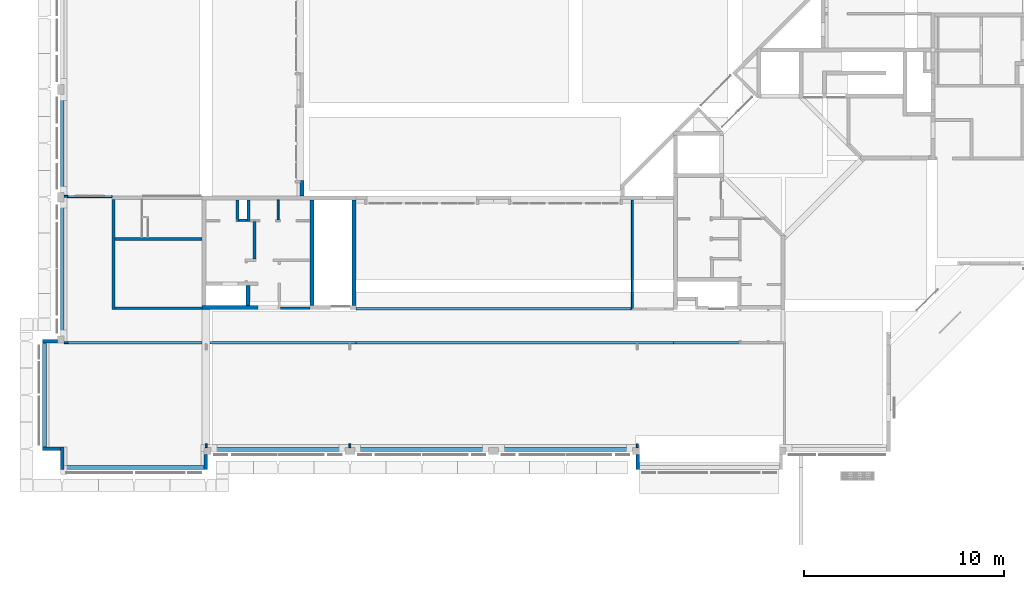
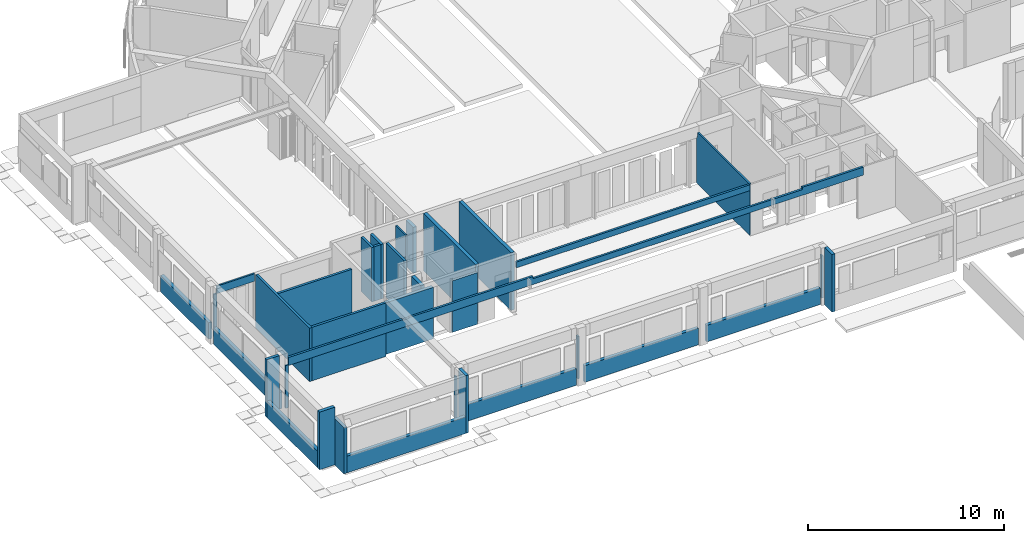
# One storey, part 14 of 30: 35 walls.
"""IFC4X3_ADD2 building model written with IfcOpenShell, lengths in millimetres."""

from ifc_helpers import new_model, si_unit, direction, frame, frame_2d, origin_with_axes, origin_2d_with_axis, place, context, subcontext, project, spatial, polyline, rectangle, outline, extrude, source, transform, mapped, material, type_object, type_shapes, element, save


model = new_model("IFC4X3_ADD2")

# Units and contexts
model_context = context("Model", 3, precision=1e-05, world=origin_with_axes(), true_north=direction((0.0, 1.0)))
body_context = subcontext(model_context, "Body", "Model", "MODEL_VIEW")
ifc_project = project(units=[si_unit("LENGTHUNIT", "METRE", prefix="MILLI"), si_unit("AREAUNIT", "SQUARE_METRE"), si_unit("VOLUMEUNIT", "CUBIC_METRE"), si_unit("PLANEANGLEUNIT", "RADIAN"), si_unit("TIMEUNIT", "SECOND"), si_unit("MASSUNIT", "GRAM")], contexts=[model_context])

# Site, building, storey
site_placement = place(None, origin_with_axes())
site = spatial("IfcSite", under=ifc_project, at=site_placement, Name="Site", CompositionType="ELEMENT")
building_placement = place(site_placement, origin_with_axes())
building = spatial("IfcBuilding", under=site, at=building_placement, Name="IFC Building Story")
storey_placement = place(building_placement, origin_with_axes())
storey = spatial("IfcBuildingStorey", under=building, at=storey_placement, Name="000", Elevation=0.0)

# Walls
ifc_material_1 = material(Name="BB_Beton_Bestaand")
wall_type_1 = type_object("IfcWallType", Name="BB_Beton_Bestaand 200", PredefinedType="NOTDEFINED", material=ifc_material_1)
wall_1_placement = place(storey_placement, origin_with_axes())
element("IfcWall", 1, at=wall_1_placement, inside=storey, type_object=wall_type_1, Name="Basic Wall:BB_XX_Wand uit beton, 200 mm", ObjectType="Basic Wall:BB_XX_Wand uit beton, 200 mm", PredefinedType="SOLIDWALL", context=body_context, shape_type="SweptSolid", body=[
    extrude(rectangle(XDim=2800.000000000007, YDim=200.0, at=origin_2d_with_axis()), frame((-42300.0, 7100.0, -80.0), z_axis=(0.0, 0.0, 1.0), x_axis=(1.0, 0.0, 0.0)), (0.0, 0.0, 1.0), 3220.0),
])
wall_2_placement = place(storey_placement, origin_with_axes())
element("IfcWall", 2, at=wall_2_placement, inside=storey, type_object=wall_type_1, Name="Basic Wall:BB_XX_Wand uit beton, 200 mm", ObjectType="Basic Wall:BB_XX_Wand uit beton, 200 mm", PredefinedType="SOLIDWALL", context=body_context, shape_type="SweptSolid", body=[
    extrude(rectangle(XDim=5300.00406588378, YDim=200.0, at=frame_2d((0.0, 0.0), x_axis=(0.0, 1.0))), frame((-36100.0, 9850.002032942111, -80.0), z_axis=(0.0, 0.0, 1.0), x_axis=(1.0, 0.0, 0.0)), (0.0, 0.0, 1.0), 3600.0),
])
wall_3_placement = place(storey_placement, origin_with_axes())
element("IfcWall", 3, at=wall_3_placement, inside=storey, type_object=wall_type_1, Name="Basic Wall:BB_XX_Wand uit beton, 200 mm", ObjectType="Basic Wall:BB_XX_Wand uit beton, 200 mm", PredefinedType="SOLIDWALL", context=body_context, shape_type="SweptSolid", body=[
    extrude(rectangle(XDim=5300.004065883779, YDim=200.0, at=frame_2d((0.0, 0.0), x_axis=(0.0, 1.0))), frame((-38200.0, 9850.00203294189, -80.0), z_axis=(0.0, 0.0, 1.0), x_axis=(1.0, 0.0, 0.0)), (0.0, 0.0, 1.0), 3600.0),
])
wall_type_2 = type_object("IfcWallType", Name="BB_Beton_Bestaand 190", PredefinedType="NOTDEFINED", material=ifc_material_1)
wall_4_placement = place(storey_placement, origin_with_axes())
element("IfcWall", 4, at=wall_4_placement, inside=storey, type_object=wall_type_2, Name="Basic Wall:BB_XX_Wand uit beton, 190 mm", ObjectType="Basic Wall:BB_XX_Wand uit beton, 190 mm", PredefinedType="SOLIDWALL", context=body_context, shape_type="SweptSolid", body=[
    extrude(rectangle(XDim=5210.0, YDim=189.9999999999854, at=frame_2d((0.0, 0.0), x_axis=(0.0, 1.0))), frame((-51600.0, 2700.0, -200.0), z_axis=(0.0, 0.0, 1.0), x_axis=(1.0, 0.0, 0.0)), (0.0, 0.0, 1.0), 1040.0),
])
wall_5_placement = place(storey_placement, origin_with_axes())
element("IfcWall", 5, at=wall_5_placement, inside=storey, type_object=wall_type_2, Name="Basic Wall:BB_XX_Wand uit beton, 190 mm", ObjectType="Basic Wall:BB_XX_Wand uit beton, 190 mm", PredefinedType="SOLIDWALL", context=body_context, shape_type="SweptSolid", body=[
    extrude(rectangle(XDim=1120.00000000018, YDim=189.9999999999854, at=frame_2d((0.0, 0.0), x_axis=(0.0, 1.0))), frame((-50700.0, -434.99999999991, -200.0), z_axis=(0.0, 0.0, 1.0), x_axis=(1.0, 0.0, 0.0)), (0.0, 0.0, 1.0), 2880.0),
])
wall_6_placement = place(storey_placement, origin_with_axes())
element("IfcWall", 6, at=wall_6_placement, inside=storey, type_object=wall_type_2, Name="Basic Wall:BB_XX_Wand uit beton, 190 mm", ObjectType="Basic Wall:BB_XX_Wand uit beton, 190 mm", PredefinedType="SOLIDWALL", context=body_context, shape_type="SweptSolid", body=[
    extrude(rectangle(XDim=900.0000000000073, YDim=190.0, at=origin_2d_with_axis()), frame((-51245.0, 30.0, -200.0), z_axis=(0.0, 0.0, 1.0), x_axis=(1.0, 0.0, 0.0)), (0.0, 0.0, 1.0), 3600.0),
])
wall_7_placement = place(storey_placement, origin_with_axes())
element("IfcWall", 7, at=wall_7_placement, inside=storey, type_object=wall_type_2, Name="Basic Wall:BB_XX_Wand uit beton, 190 mm", ObjectType="Basic Wall:BB_XX_Wand uit beton, 190 mm", PredefinedType="SOLIDWALL", context=body_context, shape_type="SweptSolid", body=[
    extrude(rectangle(XDim=7010.0, YDim=190.0, at=origin_2d_with_axis()), frame((-47100.0, -900.0, -200.0), z_axis=(0.0, 0.0, 1.0), x_axis=(1.0, 0.0, 0.0)), (0.0, 0.0, 1.0), 1039.99999999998),
])
wall_8_placement = place(storey_placement, origin_with_axes())
element("IfcWall", 8, at=wall_8_placement, inside=storey, type_object=wall_type_2, Name="Basic Wall:BB_XX_Wand uit beton, 190 mm", ObjectType="Basic Wall:BB_XX_Wand uit beton, 190 mm", PredefinedType="SOLIDWALL", context=body_context, shape_type="SweptSolid", body=[
    extrude(rectangle(XDim=6710.000000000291, YDim=190.0, at=origin_2d_with_axis()), frame((-39900.00000000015, 0.0, -200.0), z_axis=(0.0, 0.0, 1.0), x_axis=(1.0, 0.0, 0.0)), (0.0, 0.0, 1.0), 1040.0),
])
wall_9_placement = place(storey_placement, origin_with_axes())
element("IfcWall", 9, at=wall_9_placement, inside=storey, type_object=wall_type_2, Name="Basic Wall:BB_XX_Wand uit beton, 190 mm", ObjectType="Basic Wall:BB_XX_Wand uit beton, 190 mm", PredefinedType="SOLIDWALL", context=body_context, shape_type="SweptSolid", body=[
    extrude(rectangle(XDim=6710.000000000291, YDim=190.0, at=origin_2d_with_axis()), frame((-32700.00000000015, 0.0, -200.0), z_axis=(0.0, 0.0, 1.0), x_axis=(1.0, 0.0, 0.0)), (0.0, 0.0, 1.0), 1040.0),
])
wall_10_placement = place(storey_placement, origin_with_axes())
element("IfcWall", 10, at=wall_10_placement, inside=storey, type_object=wall_type_2, Name="Basic Wall:BB_XX_Wand uit beton, 190 mm", ObjectType="Basic Wall:BB_XX_Wand uit beton, 190 mm", PredefinedType="SOLIDWALL", context=body_context, shape_type="SweptSolid", body=[
    extrude(rectangle(XDim=6710.000000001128, YDim=190.0, at=origin_2d_with_axis()), frame((-25500.00000000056, 0.0, -200.0), z_axis=(0.0, 0.0, 1.0), x_axis=(1.0, 0.0, 0.0)), (0.0, 0.0, 1.0), 1040.0),
])
wall_11_placement = place(storey_placement, origin_with_axes())
element("IfcWall", 11, at=wall_11_placement, inside=storey, type_object=wall_type_2, Name="Basic Wall:BB_XX_Wand uit beton, 190 mm", ObjectType="Basic Wall:BB_XX_Wand uit beton, 190 mm", PredefinedType="SOLIDWALL", context=body_context, shape_type="SweptSolid", body=[
    extrude(rectangle(XDim=6709.99999999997, YDim=189.9999999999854, at=frame_2d((0.0, 0.0), x_axis=(0.0, 1.0))), frame((-50700.0, 9000.000000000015, -200.0), z_axis=(0.0, 0.0, 1.0), x_axis=(1.0, 0.0, 0.0)), (0.0, 0.0, 1.0), 1040.0),
])
wall_12_placement = place(storey_placement, origin_with_axes())
element("IfcWall", 12, at=wall_12_placement, inside=storey, type_object=wall_type_2, Name="Basic Wall:BB_XX_Wand uit beton, 190 mm", ObjectType="Basic Wall:BB_XX_Wand uit beton, 190 mm", PredefinedType="SOLIDWALL", context=body_context, shape_type="SweptSolid", body=[
    extrude(rectangle(XDim=4909.999999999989, YDim=189.9999999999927, at=frame_2d((0.0, 0.0), x_axis=(0.0, 1.0))), frame((-50700.0, 15300.00000000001, -200.0), z_axis=(0.0, 0.0, 1.0), x_axis=(1.0, 0.0, 0.0)), (0.0, 0.0, 1.0), 1030.00000000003),
])
wall_13_placement = place(storey_placement, origin_with_axes())
element("IfcWall", 13, at=wall_13_placement, inside=storey, type_object=wall_type_2, Name="Basic Wall:BB_XX_Wand uit beton, 190 mm", ObjectType="Basic Wall:BB_XX_Wand uit beton, 190 mm", PredefinedType="SOLIDWALL", context=body_context, shape_type="SweptSolid", body=[
    extrude(rectangle(XDim=754.995934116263, YDim=190.0, at=frame_2d((0.0, 0.0), x_axis=(0.0, 1.0))), frame((-38700.0, 13077.50203294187, -200.0), z_axis=(0.0, 0.0, 1.0), x_axis=(1.0, 0.0, 0.0)), (0.0, 0.0, 1.0), 2880.0),
])
wall_type_3 = type_object("IfcWallType", Name="BB_Beton_Bestaand 170", PredefinedType="NOTDEFINED", material=ifc_material_1)
wall_14_placement = place(storey_placement, origin_with_axes())
element("IfcWall", 14, at=wall_14_placement, inside=storey, type_object=wall_type_3, Name="Basic Wall:BB_XX_Wand uit beton, 170 mm", ObjectType="Basic Wall:BB_XX_Wand uit beton, 170 mm", PredefinedType="SOLIDWALL", context=body_context, shape_type="SweptSolid", body=[
    extrude(rectangle(XDim=750.0000000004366, YDim=170.0, at=origin_2d_with_axis()), frame((-51319.99999999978, 5420.0, -200.0), z_axis=(0.0, 0.0, 1.0), x_axis=(1.0, 0.0, 0.0)), (0.0, 0.0, 1.0), 3600.0),
])
wall_15_placement = place(storey_placement, origin_with_axes())
element("IfcWall", 15, at=wall_15_placement, inside=storey, type_object=wall_type_3, Name="Basic Wall:BB_XX_Wand uit beton, 170 mm", ObjectType="Basic Wall:BB_XX_Wand uit beton, 170 mm", PredefinedType="SOLIDWALL", context=body_context, shape_type="SweptSolid", body=[
    extrude(rectangle(XDim=750.000000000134, YDim=170.0, at=frame_2d((0.0, 0.0), x_axis=(0.0, 1.0))), frame((-43510.0, -620.0000000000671, -200.0), z_axis=(0.0, 0.0, 1.0), x_axis=(1.0, 0.0, 0.0)), (0.0, 0.0, 1.0), 3600.0),
])
wall_16_placement = place(storey_placement, origin_with_axes())
element("IfcWall", 16, at=wall_16_placement, inside=storey, type_object=wall_type_3, Name="Basic Wall:BB_XX_Wand uit beton, 170 mm", ObjectType="Basic Wall:BB_XX_Wand uit beton, 170 mm", PredefinedType="SOLIDWALL", context=body_context, shape_type="SweptSolid", body=[
    extrude(rectangle(XDim=749.999999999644, YDim=169.9999999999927, at=frame_2d((0.0, 0.0), x_axis=(0.0, 1.0))), frame((-21890.0, -620.000000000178, -200.0), z_axis=(0.0, 0.0, 1.0), x_axis=(1.0, 0.0, 0.0)), (0.0, 0.0, 1.0), 3600.0),
])
ifc_material_2 = material(Name="BB_Metselwerk_Bestaand")
wall_type_4 = type_object("IfcWallType", Name="BB_Metselwerk_Bestaand 140", PredefinedType="NOTDEFINED", material=ifc_material_2)
wall_17_placement = place(storey_placement, origin_with_axes())
element("IfcWall", 17, at=wall_17_placement, inside=storey, type_object=wall_type_4, Name="Basic Wall:BB_XX_Wand uit metselwerk, 140 mm", ObjectType="Basic Wall:BB_XX_Wand uit metselwerk, 140 mm", PredefinedType="SOLIDWALL", context=body_context, shape_type="SweptSolid", body=[
    extrude(rectangle(XDim=1469.999999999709, YDim=140.0, at=origin_2d_with_axis()), frame((-39034.99999999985, 7070.0, -80.0), z_axis=(0.0, 0.0, 1.0), x_axis=(1.0, 0.0, 0.0)), (0.0, 0.0, 1.0), 3220.0),
])
wall_18_placement = place(storey_placement, origin_with_axes())
element("IfcWall", 18, at=wall_18_placement, inside=storey, type_object=wall_type_4, Name="Basic Wall:BB_XX_Wand uit metselwerk, 140 mm", ObjectType="Basic Wall:BB_XX_Wand uit metselwerk, 140 mm", PredefinedType="SOLIDWALL", context=body_context, shape_type="SweptSolid", body=[
    extrude(rectangle(XDim=1870.004065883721, YDim=140.0, at=frame_2d((0.0, 0.0), x_axis=(0.0, 1.0))), frame((-41080.0, 10475.00203294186, -80.0), z_axis=(0.0, 0.0, 1.0), x_axis=(1.0, 0.0, 0.0)), (0.0, 0.0, 1.0), 3400.0),
])
wall_19_placement = place(storey_placement, origin_with_axes())
element("IfcWall", 19, at=wall_19_placement, inside=storey, type_object=wall_type_4, Name="Basic Wall:BB_XX_Wand uit metselwerk, 140 mm", ObjectType="Basic Wall:BB_XX_Wand uit metselwerk, 140 mm", PredefinedType="SOLIDWALL", context=body_context, shape_type="SweptSolid", body=[
    extrude(rectangle(XDim=1090.000000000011, YDim=140.0, at=frame_2d((0.0, 0.0), x_axis=(0.0, 1.0))), frame((-41370.0, 11955.004065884, -80.0), z_axis=(0.0, 0.0, 1.0), x_axis=(1.0, 0.0, 0.0)), (0.0, 0.0, 1.0), 3400.0),
])
wall_20_placement = place(storey_placement, origin_with_axes())
element("IfcWall", 20, at=wall_20_placement, inside=storey, type_object=wall_type_4, Name="Basic Wall:BB_XX_Wand uit metselwerk, 140 mm", ObjectType="Basic Wall:BB_XX_Wand uit metselwerk, 140 mm", PredefinedType="SOLIDWALL", context=body_context, shape_type="SweptSolid", body=[
    extrude(rectangle(XDim=409.9999999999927, YDim=139.9999999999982, at=origin_2d_with_axis()), frame((-41645.0, 11480.004065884, -80.0), z_axis=(0.0, 0.0, 1.0), x_axis=(1.0, 0.0, 0.0)), (0.0, 0.0, 1.0), 3400.0),
])
wall_21_placement = place(storey_placement, origin_with_axes())
element("IfcWall", 21, at=wall_21_placement, inside=storey, type_object=wall_type_4, Name="Basic Wall:BB_XX_Wand uit metselwerk, 140 mm", ObjectType="Basic Wall:BB_XX_Wand uit metselwerk, 140 mm", PredefinedType="SOLIDWALL", context=body_context, shape_type="SweptSolid", body=[
    extrude(rectangle(XDim=1090.00000000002, YDim=140.0, at=frame_2d((0.0, 0.0), x_axis=(0.0, 1.0))), frame((-41920.0, 11955.00406588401, -80.0), z_axis=(0.0, 0.0, 1.0), x_axis=(1.0, 0.0, 0.0)), (0.0, 0.0, 1.0), 3400.0),
])
wall_type_5 = type_object("IfcWallType", Name="BB_Metselwerk_Bestaand 190", PredefinedType="NOTDEFINED", material=ifc_material_2)
wall_22_placement = place(storey_placement, origin_with_axes())
element("IfcWall", 22, at=wall_22_placement, inside=storey, type_object=wall_type_5, Name="Basic Wall:BB_XX_Wand uit metselwerk, 190 mm", ObjectType="Basic Wall:BB_XX_Wand uit metselwerk, 190 mm", PredefinedType="SOLIDWALL", context=body_context, shape_type="SweptSolid", body=[
    extrude(rectangle(XDim=999.999999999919, YDim=189.9999999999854, at=frame_2d((0.0, 0.0), x_axis=(0.0, 1.0))), frame((-41405.0, 7700.00000000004, -80.0), z_axis=(0.0, 0.0, 1.0), x_axis=(1.0, 0.0, 0.0)), (0.0, 0.0, 1.0), 3400.0),
])
wall_type_6 = type_object("IfcWallType", Name="Basic Wall_BB_10.01.41#03_Gipskartonwand_43dB_MS100 _ 25.50.25_ 100 mm5", PredefinedType="NOTDEFINED")
shared_shape_1 = source(origin_with_axes(), body_context, "Body", "SweptSolid", [
    extrude(outline(polyline([(-3613.247892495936, -1173.333333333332), (-3613.247892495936, 2026.666666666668), (1869.125979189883, 2026.666666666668), (1869.125979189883, -853.3333333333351), (1744.121913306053, -853.3333333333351), (1744.121913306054, -1173.333333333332), (-3613.247892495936, -1173.333333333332)])), frame((3525.747892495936, 37.4999999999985, 2026.666666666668), z_axis=(0.0, 1.0, 0.0), x_axis=(1.0, 0.0, 0.0)), (0.0, 0.0, 1.0), 12.5000000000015),
    extrude(outline(polyline([(-3604.914559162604, -1173.333333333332), (-3604.914559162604, 2026.666666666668), (1864.959312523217, 2026.666666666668), (1864.959312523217, -853.3333333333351), (1739.955246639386, -853.3333333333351), (1739.955246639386, -1173.333333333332), (-3604.914559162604, -1173.333333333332)])), frame((3529.914559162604, 24.99999999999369, 2026.666666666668), z_axis=(0.0, 1.0, 0.0), x_axis=(1.0, 0.0, 0.0)), (0.0, 0.0, 1.0), 12.5000000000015),
    extrude(outline(polyline([(-3571.581225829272, -1173.333333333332), (-3571.581225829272, 2026.666666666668), (1848.292645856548, 2026.666666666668), (1848.292645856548, -853.3333333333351), (1723.288579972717, -853.3333333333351), (1723.288579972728, -1173.333333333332), (-3571.581225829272, -1173.333333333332)])), frame((3546.581225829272, -24.9999999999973, 2026.666666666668), z_axis=(0.0, 1.0, 0.0), x_axis=(1.0, 0.0, 0.0)), (0.0, 0.0, 1.0), 49.9999999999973),
    extrude(outline(polyline([(-3563.247892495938, -1173.333333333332), (-3563.247892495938, 2026.666666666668), (1844.125979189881, 2026.666666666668), (1844.125979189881, -853.3333333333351), (1719.121913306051, -853.3333333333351), (1719.121913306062, -1173.333333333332), (-3563.247892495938, -1173.333333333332)])), frame((3550.747892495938, -37.5000000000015, 2026.666666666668), z_axis=(0.0, 1.0, 0.0), x_axis=(1.0, 0.0, 0.0)), (0.0, 0.0, 1.0), 12.5000000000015),
    extrude(outline(polyline([(-3554.914559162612, -1173.333333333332), (-3554.914559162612, 2026.666666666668), (1839.959312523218, 2026.666666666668), (1839.959312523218, -853.3333333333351), (1714.955246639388, -853.3333333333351), (1714.955246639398, -1173.333333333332), (-3554.914559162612, -1173.333333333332)])), frame((3554.914559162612, -50.0000000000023, 2026.666666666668), z_axis=(0.0, 1.0, 0.0), x_axis=(1.0, 0.0, 0.0)), (0.0, 0.0, 1.0), 12.49999999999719),
])
type_shapes(wall_type_6, [shared_shape_1])
wall_23_placement = place(storey_placement, frame((-22150.0, 7085.13019419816, -200.0), z_axis=(0.0, 0.0, 1.0), x_axis=(0.0, 1.0, 0.0)))
element("IfcWall", 23, at=wall_23_placement, inside=storey, type_object=wall_type_6, Name="Basic Wall:BB_10.01.41#03_Gipskartonwand_43dB_MS100 / 25.50.25, 100 mm", ObjectType="Basic Wall:BB_10.01.41#03_Gipskartonwand_43dB_MS100 / 25.50.25, 100 mm", PredefinedType="PARTITIONING", context=body_context, shape_type="MappedRepresentation", body=[
    mapped(shared_shape_1, transform((0.0, 0.0, 0.0))),
])
wall_type_7 = type_object("IfcWallType", Name="Basic Wall_BB_10.01.41#03_Gipskartonwand_43dB_MS125 _ 25.75.25_ 125 mm", PredefinedType="NOTDEFINED")
shared_shape_2 = source(origin_with_axes(), body_context, "Body", "SweptSolid", [
    extrude(outline(polyline([(-15438.33333333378, 386.6666666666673), (18511.66666666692, 386.6666666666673), (18511.66666666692, -113.3333333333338), (14906.66666666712, -113.3333333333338), (14906.66666666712, 26.66666666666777), (-993.3333333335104, 26.66666666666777), (-993.3333333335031, -113.3333333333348), (-8293.333333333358, -113.3333333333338), (-8293.333333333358, -73.33333333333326), (-8693.333333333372, -73.33333333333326), (-8693.333333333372, -113.3333333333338), (-15438.33333333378, -113.3333333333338), (-15438.33333333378, 386.6666666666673)])), frame((15423.33333333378, 50.0, 386.6666666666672), z_axis=(0.0, 1.0, 0.0), x_axis=(1.0, 0.0, 0.0)), (0.0, 0.0, 1.0), 12.49999999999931),
    extrude(outline(polyline([(-15438.33333333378, 386.6666666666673), (18511.66666666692, 386.6666666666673), (18511.66666666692, -113.3333333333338), (14906.66666666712, -113.3333333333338), (14906.66666666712, 26.66666666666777), (-993.3333333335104, 26.66666666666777), (-993.3333333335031, -113.3333333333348), (-8293.333333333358, -113.3333333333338), (-8293.333333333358, -73.33333333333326), (-8693.333333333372, -73.33333333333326), (-8693.333333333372, -113.3333333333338), (-15438.33333333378, -113.3333333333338), (-15438.33333333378, 386.6666666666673)])), frame((15423.33333333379, 37.50000000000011, 386.6666666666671), z_axis=(0.0, 1.0, 0.0), x_axis=(1.0, 0.0, 0.0)), (0.0, 0.0, 1.0), 12.4999999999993),
    extrude(outline(polyline([(-15446.66666666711, 386.6666666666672), (18513.33333333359, 386.6666666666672), (18513.33333333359, -113.3333333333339), (14908.33333333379, -113.3333333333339), (14908.33333333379, 26.66666666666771), (-991.6666666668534, 26.66666666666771), (-991.6666666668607, -113.3333333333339), (-8291.666666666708, -113.3333333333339), (-8291.666666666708, -73.33333333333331), (-8691.66666666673, -73.33333333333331), (-8691.666666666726, -113.3333333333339), (-15446.66666666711, -113.3333333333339), (-15446.66666666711, 386.6666666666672)])), frame((15421.66666666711, -37.50000000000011, 386.6666666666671), z_axis=(0.0, 1.0, 0.0), x_axis=(1.0, 0.0, 0.0)), (0.0, 0.0, 1.0), 75.0),
    extrude(outline(polyline([(-15438.33333333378, 386.6666666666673), (18511.66666666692, 386.6666666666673), (18511.66666666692, -113.3333333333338), (14906.66666666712, -113.3333333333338), (14906.66666666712, 26.66666666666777), (-993.3333333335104, 26.66666666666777), (-993.3333333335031, -113.3333333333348), (-8293.333333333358, -113.3333333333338), (-8293.333333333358, -73.33333333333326), (-8693.333333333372, -73.33333333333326), (-8693.333333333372, -113.3333333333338), (-15438.33333333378, -113.3333333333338), (-15438.33333333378, 386.6666666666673)])), frame((15423.33333333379, -50.0, 386.6666666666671), z_axis=(0.0, 1.0, 0.0), x_axis=(1.0, 0.0, 0.0)), (0.0, 0.0, 1.0), 12.49999999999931),
    extrude(outline(polyline([(-15438.33333333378, -113.3333333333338), (-15438.33333333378, 386.6666666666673), (18511.66666666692, 386.6666666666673), (18511.66666666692, -113.3333333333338), (14906.66666666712, -113.3333333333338), (14906.66666666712, 26.66666666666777), (-993.3333333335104, 26.66666666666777), (-993.3333333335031, -113.3333333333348), (-8293.333333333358, -113.3333333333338), (-8293.333333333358, -73.33333333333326), (-8693.333333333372, -73.33333333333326), (-8693.333333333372, -113.3333333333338), (-15438.33333333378, -113.3333333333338)])), frame((15423.33333333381, -62.49999999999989, 386.666666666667), z_axis=(0.0, 1.0, 0.0), x_axis=(1.0, 0.0, 0.0)), (0.0, 0.0, 1.0), 12.50000000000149),
])
type_shapes(wall_type_7, [shared_shape_2])
wall_24_placement = place(storey_placement, frame((-50430.0, 5337.50000000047, 2640.0), z_axis=(0.0, 0.0, 1.0), x_axis=(1.0, 0.0, 0.0)))
element("IfcWall", 24, at=wall_24_placement, inside=storey, type_object=wall_type_7, Name="Basic Wall:BB_10.01.41#03_Gipskartonwand_43dB_MS125 / 25.75.25, 125 mm", ObjectType="Basic Wall:BB_10.01.41#03_Gipskartonwand_43dB_MS125 / 25.75.25, 125 mm", PredefinedType="PARTITIONING", context=body_context, shape_type="MappedRepresentation", body=[
    mapped(shared_shape_2, transform((0.0, 0.0, 0.0))),
])
wall_type_8 = type_object("IfcWallType", Name="Basic Wall_BB_10.01.41#03_Gipskartonwand_43dB_MS125 _ 25.75.25_ 125 mm5", PredefinedType="NOTDEFINED")
shared_shape_3 = source(origin_with_axes(), body_context, "Body", "SweptSolid", [
    extrude(rectangle(XDim=13800.00000000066, YDim=12.49999999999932, at=origin_2d_with_axis()), frame((6900.0, 56.24999999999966, 0.0), z_axis=(0.0, 0.0, 1.0), x_axis=(1.0, 0.0, 0.0)), (0.0, 0.0, 1.0), 360.0),
    extrude(rectangle(XDim=13800.00000000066, YDim=12.5000000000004, at=origin_2d_with_axis()), frame((6900.0, 43.7499999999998, 0.0), z_axis=(0.0, 0.0, 1.0), x_axis=(1.0, 0.0, 0.0)), (0.0, 0.0, 1.0), 360.0),
    extrude(rectangle(XDim=13800.00000000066, YDim=75.0, at=origin_2d_with_axis()), frame((6900.0, 0.0, 0.0), z_axis=(0.0, 0.0, 1.0), x_axis=(1.0, 0.0, 0.0)), (0.0, 0.0, 1.0), 360.0),
    extrude(rectangle(XDim=13800.00000000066, YDim=12.49999999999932, at=origin_2d_with_axis()), frame((6900.0, -43.75000000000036, 0.0), z_axis=(0.0, 0.0, 1.0), x_axis=(1.0, 0.0, 0.0)), (0.0, 0.0, 1.0), 360.0),
    extrude(rectangle(XDim=13800.00000000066, YDim=12.50000000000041, at=origin_2d_with_axis()), frame((6900.0, -56.25000000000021, 0.0), z_axis=(0.0, 0.0, 1.0), x_axis=(1.0, 0.0, 0.0)), (0.0, 0.0, 1.0), 360.0),
])
type_shapes(wall_type_8, [shared_shape_3])
wall_25_placement = place(storey_placement, frame((-22200.0, 7047.63019419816, 2640.0), z_axis=(0.0, 0.0, 1.0), x_axis=(-1.0, 0.0, 0.0)))
element("IfcWall", 25, at=wall_25_placement, inside=storey, type_object=wall_type_8, Name="Basic Wall:BB_10.01.41#03_Gipskartonwand_43dB_MS125 / 25.75.25, 125 mm", ObjectType="Basic Wall:BB_10.01.41#03_Gipskartonwand_43dB_MS125 / 25.75.25, 125 mm", PredefinedType="PARTITIONING", context=body_context, shape_type="MappedRepresentation", body=[
    mapped(shared_shape_3, transform((0.0, 0.0, 0.0))),
])
wall_type_9 = type_object("IfcWallType", Name="Basic Wall_BB_10.01.41#01_Gipskartonwand_MS100 _ 25.50.25_ 100 mm5", PredefinedType="NOTDEFINED")
shared_shape_4 = source(origin_with_axes(), body_context, "Body", "SweptSolid", [
    extrude(outline(polyline([(-1488.333333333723, 266.66666666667), (736.666666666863, 266.66666666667), (736.666666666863, -63.33333333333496), (751.6666666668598, -63.33333333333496), (751.6666666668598, -203.333333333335), (-1488.333333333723, -203.333333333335), (-1488.333333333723, 266.66666666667)])), frame((1473.333333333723, 37.499999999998, 266.666666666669), z_axis=(0.0, 1.0, 0.0), x_axis=(1.0, 0.0, 0.0)), (0.0, 0.0, 1.0), 12.50000000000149),
    extrude(outline(polyline([(-1488.333333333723, 266.66666666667), (736.666666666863, 266.66666666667), (736.666666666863, -63.33333333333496), (751.6666666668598, -63.33333333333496), (751.6666666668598, -203.333333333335), (-1488.333333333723, -203.333333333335), (-1488.333333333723, 266.66666666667)])), frame((1473.333333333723, 25.0, 266.666666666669), z_axis=(0.0, 1.0, 0.0), x_axis=(1.0, 0.0, 0.0)), (0.0, 0.0, 1.0), 12.49999999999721),
    extrude(outline(polyline([(-1495.000000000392, 266.66666666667), (740.000000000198, 266.66666666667), (740.000000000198, -63.33333333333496), (755.000000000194, -63.33333333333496), (755.000000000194, -203.333333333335), (-1495.000000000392, -203.333333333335), (-1495.000000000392, 266.66666666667)])), frame((1470.000000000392, -25.0, 266.666666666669), z_axis=(0.0, 1.0, 0.0), x_axis=(1.0, 0.0, 0.0)), (0.0, 0.0, 1.0), 50.00000000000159),
    extrude(rectangle(XDim=2225.00000000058, YDim=12.49999999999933, at=origin_2d_with_axis()), frame((1097.50000000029, -31.25000000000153, 0.0), z_axis=(0.0, 0.0, 1.0), x_axis=(1.0, 0.0, 0.0)), (0.0, 0.0, 1.0), 470.000000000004),
    extrude(rectangle(XDim=2225.00000000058, YDim=12.49999999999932, at=origin_2d_with_axis()), frame((1097.50000000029, -43.7500000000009, 0.0), z_axis=(0.0, 0.0, 1.0), x_axis=(1.0, 0.0, 0.0)), (0.0, 0.0, 1.0), 470.000000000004),
])
type_shapes(wall_type_9, [shared_shape_4])
wall_26_placement = place(storey_placement, frame((-50430.0, 12665.0040658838, 2670.0), z_axis=(0.0, 0.0, 1.0), x_axis=(1.0, 0.0, 0.0)))
element("IfcWall", 26, at=wall_26_placement, inside=storey, type_object=wall_type_9, Name="Basic Wall:BB_10.01.41#01_Gipskartonwand_MS100 / 25.50.25, 100 mm", ObjectType="Basic Wall:BB_10.01.41#01_Gipskartonwand_MS100 / 25.50.25, 100 mm", PredefinedType="PARTITIONING", context=body_context, shape_type="MappedRepresentation", body=[
    mapped(shared_shape_4, transform((0.0, 0.0, 0.0))),
])
wall_type_10 = type_object("IfcWallType", Name="Basic Wall_BB_10.01.41#03_Gipskartonwand_43dB_MS100 _ 25.50.25_ 100 mm37", PredefinedType="NOTDEFINED")
shared_shape_5 = source(origin_with_axes(), body_context, "Body", "SweptSolid", [
    extrude(rectangle(XDim=175.000000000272, YDim=12.49999999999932, at=origin_2d_with_axis()), frame((87.500000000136, 43.74999999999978, 0.0), z_axis=(0.0, 0.0, 1.0), x_axis=(1.0, 0.0, 0.0)), (0.0, 0.0, 1.0), 2670.0),
    extrude(rectangle(XDim=175.000000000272, YDim=12.49999999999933, at=origin_2d_with_axis()), frame((87.500000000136, 31.25000000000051, 0.0), z_axis=(0.0, 0.0, 1.0), x_axis=(1.0, 0.0, 0.0)), (0.0, 0.0, 1.0), 2670.0),
    extrude(rectangle(XDim=175.000000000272, YDim=50.0000000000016, at=origin_2d_with_axis()), frame((87.500000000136, 0.0, 0.0), z_axis=(0.0, 0.0, 1.0), x_axis=(1.0, 0.0, 0.0)), (0.0, 0.0, 1.0), 2670.0),
    extrude(rectangle(XDim=175.000000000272, YDim=12.49999999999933, at=origin_2d_with_axis()), frame((87.500000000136, -31.25000000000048, 0.0), z_axis=(0.0, 0.0, 1.0), x_axis=(1.0, 0.0, 0.0)), (0.0, 0.0, 1.0), 2670.0),
    extrude(rectangle(XDim=175.000000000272, YDim=12.49999999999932, at=origin_2d_with_axis()), frame((87.500000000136, -43.74999999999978, 0.0), z_axis=(0.0, 0.0, 1.0), x_axis=(1.0, 0.0, 0.0)), (0.0, 0.0, 1.0), 2670.0),
])
type_shapes(wall_type_10, [shared_shape_5])
wall_27_placement = place(storey_placement, frame((-50605.0, 12678.0040658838, 0.0), z_axis=(0.0, 0.0, 1.0), x_axis=(1.0, 0.0, 0.0)))
element("IfcWall", 27, at=wall_27_placement, inside=storey, type_object=wall_type_10, Name="Basic Wall:BB_10.01.41#03_Gipskartonwand_43dB_MS100 / 25.50.25, 100 mm", ObjectType="Basic Wall:BB_10.01.41#03_Gipskartonwand_43dB_MS100 / 25.50.25, 100 mm", PredefinedType="PARTITIONING", context=body_context, shape_type="MappedRepresentation", body=[
    mapped(shared_shape_5, transform((0.0, 0.0, 0.0))),
])
wall_type_11 = type_object("IfcWallType", Name="Basic Wall_BB_10.01.41#03_Gipskartonwand_43dB_MS100 _ 25.50.25_ 100 mm41", PredefinedType="NOTDEFINED")
shared_shape_6 = source(origin_with_axes(), body_context, "Body", "SweptSolid", [
    extrude(rectangle(XDim=174.9999999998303, YDim=12.49999999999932, at=origin_2d_with_axis()), frame((87.49999999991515, 43.7499999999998, 0.0), z_axis=(0.0, 0.0, 1.0), x_axis=(1.0, 0.0, 0.0)), (0.0, 0.0, 1.0), 2670.0),
    extrude(rectangle(XDim=174.9999999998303, YDim=12.50000000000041, at=origin_2d_with_axis()), frame((87.49999999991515, 31.24999999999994, 0.0), z_axis=(0.0, 0.0, 1.0), x_axis=(1.0, 0.0, 0.0)), (0.0, 0.0, 1.0), 2670.0),
    extrude(rectangle(XDim=174.9999999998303, YDim=49.9999999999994, at=origin_2d_with_axis()), frame((87.49999999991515, 0.0, 0.0), z_axis=(0.0, 0.0, 1.0), x_axis=(1.0, 0.0, 0.0)), (0.0, 0.0, 1.0), 2670.0),
    extrude(rectangle(XDim=174.9999999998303, YDim=12.50000000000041, at=origin_2d_with_axis()), frame((87.49999999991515, -31.24999999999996, 0.0), z_axis=(0.0, 0.0, 1.0), x_axis=(1.0, 0.0, 0.0)), (0.0, 0.0, 1.0), 2670.0),
    extrude(rectangle(XDim=174.9999999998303, YDim=12.50000000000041, at=origin_2d_with_axis()), frame((87.49999999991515, -43.75000000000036, 0.0), z_axis=(0.0, 0.0, 1.0), x_axis=(1.0, 0.0, 0.0)), (0.0, 0.0, 1.0), 2670.0),
])
type_shapes(wall_type_11, [shared_shape_6])
wall_28_placement = place(storey_placement, frame((-50605.0, 5350.0, 0.0), z_axis=(0.0, 0.0, 1.0), x_axis=(1.0, 0.0, 0.0)))
element("IfcWall", 28, at=wall_28_placement, inside=storey, type_object=wall_type_11, Name="Basic Wall:BB_10.01.41#03_Gipskartonwand_43dB_MS100 / 25.50.25, 100 mm", ObjectType="Basic Wall:BB_10.01.41#03_Gipskartonwand_43dB_MS100 / 25.50.25, 100 mm", PredefinedType="PARTITIONING", context=body_context, shape_type="MappedRepresentation", body=[
    mapped(shared_shape_6, transform((0.0, 0.0, 0.0))),
])
wall_type_12 = type_object("IfcWallType", Name="Basic Wall_BB_10.01.41#03_Gipskartonwand_43dB_MS100 _ 25.50.25_ 100 mm45", PredefinedType="NOTDEFINED")
shared_shape_7 = source(origin_with_axes(), body_context, "Body", "SweptSolid", [
    extrude(rectangle(XDim=180.0000000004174, YDim=12.50000000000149, at=origin_2d_with_axis()), frame((90.0, 43.75000000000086, 0.0), z_axis=(0.0, 0.0, 1.0), x_axis=(1.0, 0.0, 0.0)), (0.0, 0.0, 1.0), 2640.0),
    extrude(rectangle(XDim=180.0000000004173, YDim=12.50000000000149, at=origin_2d_with_axis()), frame((90.0, 31.24999999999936, 0.0), z_axis=(0.0, 0.0, 1.0), x_axis=(1.0, 0.0, 0.0)), (0.0, 0.0, 1.0), 2640.0),
    extrude(rectangle(XDim=180.0000000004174, YDim=49.9999999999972, at=origin_2d_with_axis()), frame((89.99999999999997, 0.0, 0.0), z_axis=(0.0, 0.0, 1.0), x_axis=(1.0, 0.0, 0.0)), (0.0, 0.0, 1.0), 2640.0),
    extrude(rectangle(XDim=180.0000000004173, YDim=12.50000000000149, at=origin_2d_with_axis()), frame((90.0, -31.24999999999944, 0.0), z_axis=(0.0, 0.0, 1.0), x_axis=(1.0, 0.0, 0.0)), (0.0, 0.0, 1.0), 2640.0),
    extrude(rectangle(XDim=180.0000000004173, YDim=12.49999999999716, at=origin_2d_with_axis()), frame((90.0, -43.7499999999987, 0.0), z_axis=(0.0, 0.0, 1.0), x_axis=(1.0, 0.0, 0.0)), (0.0, 0.0, 1.0), 2640.0),
])
type_shapes(wall_type_12, [shared_shape_7])
wall_29_placement = place(storey_placement, frame((-21900.0, 95.0, 0.0), z_axis=(0.0, 0.0, 1.0), x_axis=(0.0, 1.0, 0.0)))
element("IfcWall", 29, at=wall_29_placement, inside=storey, type_object=wall_type_12, Name="Basic Wall:BB_10.01.41#03_Gipskartonwand_43dB_MS100 / 25.50.25, 100 mm", ObjectType="Basic Wall:BB_10.01.41#03_Gipskartonwand_43dB_MS100 / 25.50.25, 100 mm", PredefinedType="PARTITIONING", context=body_context, shape_type="MappedRepresentation", body=[
    mapped(shared_shape_7, transform((0.0, 0.0, 0.0))),
])
wall_type_13 = type_object("IfcWallType", Name="Basic Wall_BB_10.01.41#03_Gipskartonwand_43dB_MS100 _ 25.50.25_ 100 mm47", PredefinedType="NOTDEFINED")
shared_shape_8 = source(origin_with_axes(), body_context, "Body", "SweptSolid", [
    extrude(rectangle(XDim=180.0000000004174, YDim=12.49999999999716, at=origin_2d_with_axis()), frame((90.0, 43.75000000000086, 0.0), z_axis=(0.0, 0.0, 1.0), x_axis=(1.0, 0.0, 0.0)), (0.0, 0.0, 1.0), 2640.0),
    extrude(rectangle(XDim=180.0000000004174, YDim=12.49999999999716, at=origin_2d_with_axis()), frame((90.0, 31.24999999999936, 0.0), z_axis=(0.0, 0.0, 1.0), x_axis=(1.0, 0.0, 0.0)), (0.0, 0.0, 1.0), 2640.0),
    extrude(rectangle(XDim=180.0000000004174, YDim=50.000000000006, at=origin_2d_with_axis()), frame((89.99999999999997, 0.0, 0.0), z_axis=(0.0, 0.0, 1.0), x_axis=(1.0, 0.0, 0.0)), (0.0, 0.0, 1.0), 2640.0),
    extrude(rectangle(XDim=180.0000000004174, YDim=12.49999999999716, at=origin_2d_with_axis()), frame((90.0, -31.24999999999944, 0.0), z_axis=(0.0, 0.0, 1.0), x_axis=(1.0, 0.0, 0.0)), (0.0, 0.0, 1.0), 2640.0),
    extrude(rectangle(XDim=180.0000000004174, YDim=12.50000000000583, at=origin_2d_with_axis()), frame((90.0, -43.7499999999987, 0.0), z_axis=(0.0, 0.0, 1.0), x_axis=(1.0, 0.0, 0.0)), (0.0, 0.0, 1.0), 2640.0),
])
type_shapes(wall_type_13, [shared_shape_8])
wall_30_placement = place(storey_placement, frame((-43500.0, 95.0, 0.0), z_axis=(0.0, 0.0, 1.0), x_axis=(0.0, 1.0, 0.0)))
element("IfcWall", 30, at=wall_30_placement, inside=storey, type_object=wall_type_13, Name="Basic Wall:BB_10.01.41#03_Gipskartonwand_43dB_MS100 / 25.50.25, 100 mm", ObjectType="Basic Wall:BB_10.01.41#03_Gipskartonwand_43dB_MS100 / 25.50.25, 100 mm", PredefinedType="PARTITIONING", context=body_context, shape_type="MappedRepresentation", body=[
    mapped(shared_shape_8, transform((0.0, 0.0, 0.0))),
])
wall_type_14 = type_object("IfcWallType", Name="Basic Wall_BB_10.01.41#03_Gipskartonwand_43dB_MS100 _ 25.50.25_ 100 mm49", PredefinedType="NOTDEFINED")
shared_shape_9 = source(origin_with_axes(), body_context, "Body", "SweptSolid", [
    extrude(rectangle(XDim=180.0000000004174, YDim=12.50000000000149, at=origin_2d_with_axis()), frame((90.0, 43.75000000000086, 0.0), z_axis=(0.0, 0.0, 1.0), x_axis=(1.0, 0.0, 0.0)), (0.0, 0.0, 1.0), 2640.0),
    extrude(rectangle(XDim=180.0000000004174, YDim=12.50000000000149, at=origin_2d_with_axis()), frame((90.0, 31.24999999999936, 0.0), z_axis=(0.0, 0.0, 1.0), x_axis=(1.0, 0.0, 0.0)), (0.0, 0.0, 1.0), 2640.0),
    extrude(rectangle(XDim=180.0000000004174, YDim=49.9999999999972, at=origin_2d_with_axis()), frame((89.99999999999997, 0.0, 0.0), z_axis=(0.0, 0.0, 1.0), x_axis=(1.0, 0.0, 0.0)), (0.0, 0.0, 1.0), 2640.0),
    extrude(rectangle(XDim=180.0000000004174, YDim=12.50000000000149, at=origin_2d_with_axis()), frame((90.0, -31.24999999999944, 0.0), z_axis=(0.0, 0.0, 1.0), x_axis=(1.0, 0.0, 0.0)), (0.0, 0.0, 1.0), 2640.0),
    extrude(rectangle(XDim=180.0000000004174, YDim=12.49999999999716, at=origin_2d_with_axis()), frame((90.0, -43.7499999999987, 0.0), z_axis=(0.0, 0.0, 1.0), x_axis=(1.0, 0.0, 0.0)), (0.0, 0.0, 1.0), 2640.0),
])
type_shapes(wall_type_14, [shared_shape_9])
wall_31_placement = place(storey_placement, frame((-36300.0, 95.0, 0.0), z_axis=(0.0, 0.0, 1.0), x_axis=(0.0, 1.0, 0.0)))
element("IfcWall", 31, at=wall_31_placement, inside=storey, type_object=wall_type_14, Name="Basic Wall:BB_10.01.41#03_Gipskartonwand_43dB_MS100 / 25.50.25, 100 mm", ObjectType="Basic Wall:BB_10.01.41#03_Gipskartonwand_43dB_MS100 / 25.50.25, 100 mm", PredefinedType="PARTITIONING", context=body_context, shape_type="MappedRepresentation", body=[
    mapped(shared_shape_9, transform((0.0, 0.0, 0.0))),
])
wall_type_15 = type_object("IfcWallType", Name="BB_Metselwerk_Bestaand 100", PredefinedType="NOTDEFINED", material=ifc_material_2)
wall_32_placement = place(storey_placement, origin_with_axes())
element("IfcWall", 32, at=wall_32_placement, inside=storey, type_object=wall_type_15, Name="Basic Wall:BB_XX_Wand uit metselwerk, 100 mm", ObjectType="Basic Wall:BB_XX_Wand uit metselwerk, 100 mm", PredefinedType="SOLIDWALL", context=body_context, shape_type="SweptSolid", body=[
    extrude(rectangle(XDim=1000.000000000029, YDim=100.0, at=frame_2d((0.0, 0.0), x_axis=(0.0, 1.0))), frame((-39895.0, 12000.00406588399, -80.0), z_axis=(0.0, 0.0, 1.0), x_axis=(1.0, 0.0, 0.0)), (0.0, 0.0, 1.0), 3400.0),
])
ifc_material_3 = material(Name="BB_Metselwerk_Betonsteen")
wall_type_16 = type_object("IfcWallType", Name="BB_Metselwerk_Betonsteen 140", PredefinedType="NOTDEFINED", material=ifc_material_3)
wall_33_placement = place(storey_placement, origin_with_axes())
element("IfcWall", 33, at=wall_33_placement, inside=storey, type_object=wall_type_16, Name="Basic Wall:BB_03.09.24#01_Wand uit metselwerk, 140 mm", ObjectType="Basic Wall:BB_03.09.24#01_Wand uit metselwerk, 140 mm", PredefinedType="SOLIDWALL", context=body_context, shape_type="SweptSolid", body=[
    extrude(rectangle(XDim=4364.999999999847, YDim=140.0, at=origin_2d_with_axis()), frame((-45882.49999999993, 7070.0, -200.0), z_axis=(0.0, 0.0, 1.0), x_axis=(1.0, 0.0, 0.0)), (0.0, 0.0, 1.0), 3340.0),
])
wall_34_placement = place(storey_placement, origin_with_axes())
element("IfcWall", 34, at=wall_34_placement, inside=storey, type_object=wall_type_16, Name="Basic Wall:BB_03.09.24#01_Wand uit metselwerk, 140 mm", ObjectType="Basic Wall:BB_03.09.24#01_Wand uit metselwerk, 140 mm", PredefinedType="SOLIDWALL", context=body_context, shape_type="SweptSolid", body=[
    extrude(rectangle(XDim=5510.004065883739, YDim=140.0, at=frame_2d((0.0, 0.0), x_axis=(0.0, 1.0))), frame((-48135.0, 9755.00203294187, -200.0), z_axis=(0.0, 0.0, 1.0), x_axis=(1.0, 0.0, 0.0)), (0.0, 0.0, 1.0), 3340.0),
])
wall_35_placement = place(storey_placement, origin_with_axes())
element("IfcWall", 35, at=wall_35_placement, inside=storey, type_object=wall_type_16, Name="Basic Wall:BB_03.09.24#01_Wand uit metselwerk, 140 mm", ObjectType="Basic Wall:BB_03.09.24#01_Wand uit metselwerk, 140 mm", PredefinedType="SOLIDWALL", context=body_context, shape_type="SweptSolid", body=[
    extrude(rectangle(XDim=4364.999999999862, YDim=139.9999999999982, at=origin_2d_with_axis()), frame((-45882.49999999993, 10540.004065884, -200.0), z_axis=(0.0, 0.0, 1.0), x_axis=(1.0, 0.0, 0.0)), (0.0, 0.0, 1.0), 3340.0),
])

save(model, "model.ifc")
